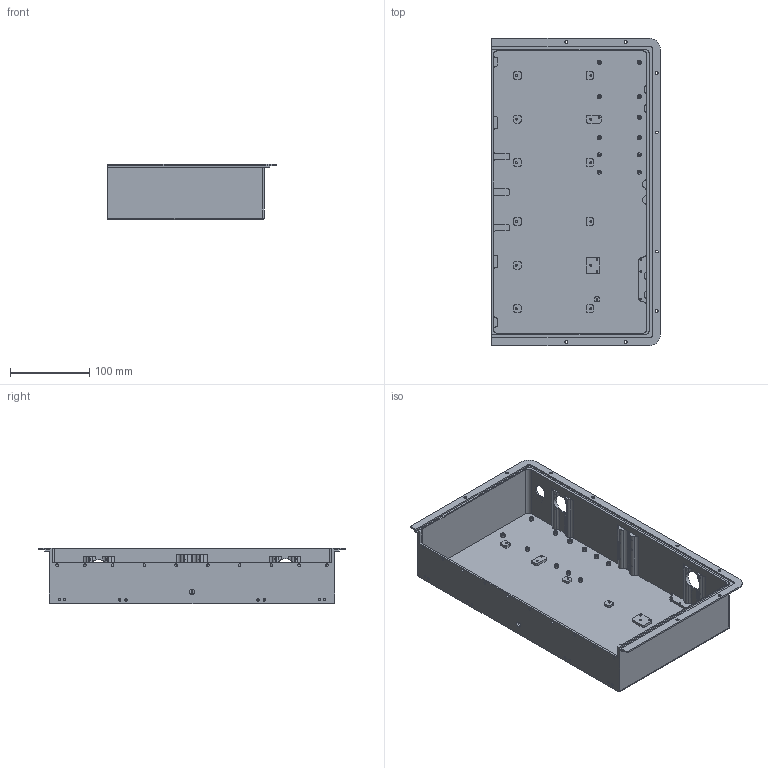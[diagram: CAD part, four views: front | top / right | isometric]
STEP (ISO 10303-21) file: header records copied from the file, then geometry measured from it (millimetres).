
FILE_DESCRIPTION (( 'STEP AP214' ), '1' );
FILE_NAME ('反制盾-盒体2.STEP', '2026-09-29T08:34:28', ( '微软用户' ), ( '微软中国' ), 'SwSTEP 2.0', 'SolidWorks 2016', '' );
FILE_SCHEMA (( 'AUTOMOTIVE_DESIGN' ));
Length unit declared in the file: millimetre
Products named in the file (1): 毀秶嗎-碟极2
Bounding box: 212.5 x 387 x 69.8 mm (x, y, z)
Volume: 309395.4 mm3; surface area: 310504.3 mm2
Topology: 1 solids, 1 shells, 1376 faces, 3617 edges, 2380 vertices
Faces by surface type: plane 682, cylinder 354, bspline 270, cone 68, sphere 2
Entity records: 57623 total; most frequent: CARTESIAN_POINT 23410, ORIENTED_EDGE 7230, DIRECTION 6023, EDGE_CURVE 3615, VERTEX_POINT 2380, LINE 2301, VECTOR 2301, AXIS2_PLACEMENT_3D 1861
